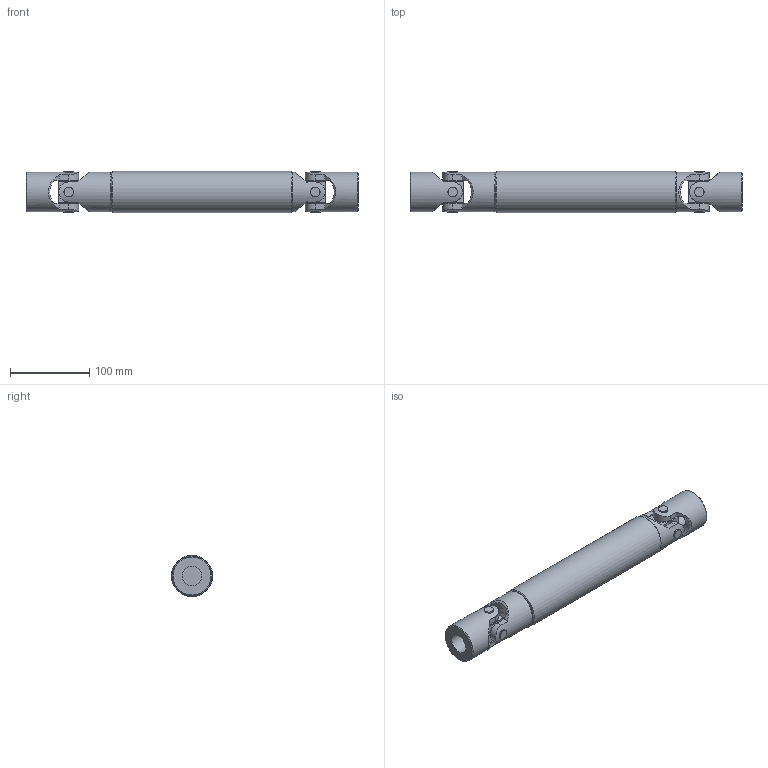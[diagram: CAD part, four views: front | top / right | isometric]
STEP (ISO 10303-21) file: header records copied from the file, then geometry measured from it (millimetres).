
FILE_DESCRIPTION(/* description */ (''),/* implementation_level */ '2;1');
FILE_NAME(/* name */ '\\SRV2016\societa\Stefano\Disegni 3D\0Catalogo 3D\15Trasmissioni speciali XA\Ø50_5XA\5XA.stp',/* time_stamp */ '2023-05-17T08:20:19+02:00',/* author */ ('acquisti'),/* organization */ (''),/* preprocessor_version */ 'ST-DEVELOPER v15.6',/* originating_system */ 'Autodesk Inventor 2015',/* authorisation */ '');
FILE_SCHEMA (('AUTOMOTIVE_DESIGN { 1 0 10303 214 3 1 1 }'));
Length unit declared in the file: millimetre
Products named in the file (5): 5X LAI; 5X LCI; 5X SFE; 5X MOS; Ø50_5XA
Assembly tree (6 placements, depth 2):
  Ø50_5XA
    5X LAI
    5X LCI
    5X SFE  x2
    5X MOS  x2
Bounding box: 420 x 52.76 x 52.76 mm (x, y, z)
Volume: 580779.2 mm3; surface area: 154602.6 mm2
Topology: 6 solids, 6 shells, 182 faces, 471 edges, 317 vertices
Faces by surface type: plane 94, cylinder 60, cone 24, torus 4
Full cylindrical faces by diameter (mm): 12 x8, 23 x8, 25 x2, 28 x3, 32.4 x1, 45 x1, 50 x4, 52.5 x1
Entity records: 4930 total; most frequent: CARTESIAN_POINT 1505, DIRECTION 684, ORIENTED_EDGE 676, EDGE_CURVE 338, AXIS2_PLACEMENT_3D 270, VERTEX_POINT 242, EDGE_LOOP 186, LINE 144
